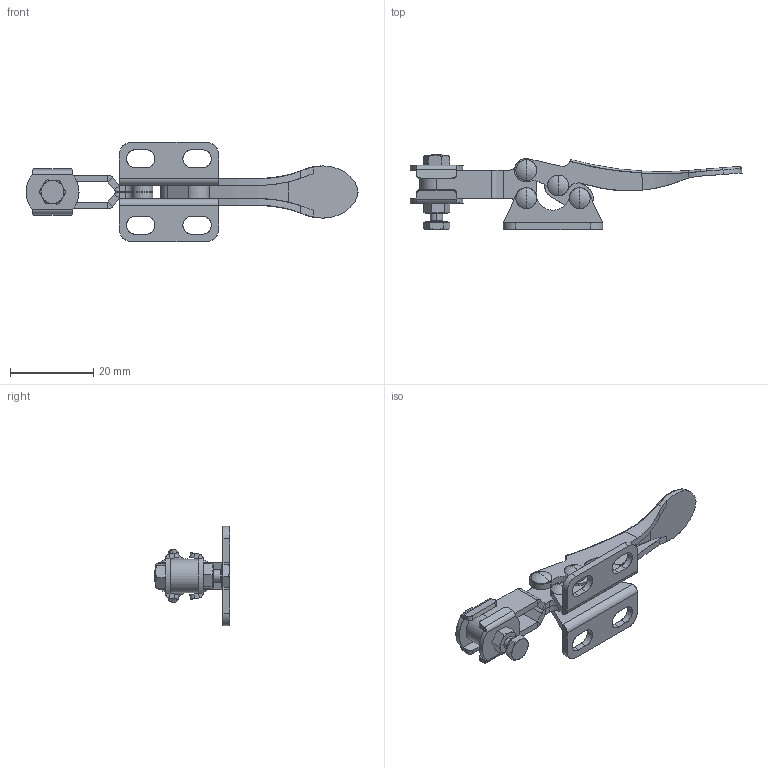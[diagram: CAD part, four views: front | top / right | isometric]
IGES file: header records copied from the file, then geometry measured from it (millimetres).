
Start section: SolidWorks IGES file using analytic representation for surfaces
Global section: file name: D:\GH Files\GH-SW-FILES\GH2\201(a)\201.IGS; native system: SolidWorks 2007; preprocessor: SolidWorks 2007; author: Administrator; date: 061019.112412; units: millimetre
Bounding box: 79.54 x 18 x 23.8 mm (x, y, z)
Surface area: 6182.9 mm2 (no closed solid volume)
Topology: 0 solids, 0 shells, 390 faces, 4841 edges, 4825 vertices
Faces by surface type: revolution 206, bspline 184
